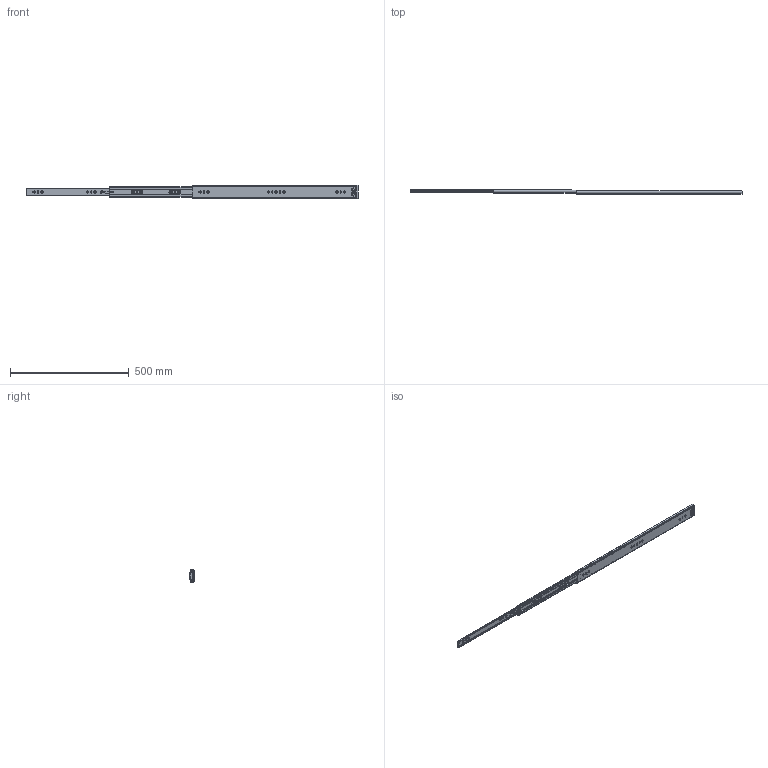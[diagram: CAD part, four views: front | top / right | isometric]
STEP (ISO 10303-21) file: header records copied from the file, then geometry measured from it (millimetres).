
FILE_DESCRIPTION((''),'2;1');
FILE_NAME('1057-02-28_ASM','2023-12-23T',('jishu015'),(''),'PRO/ENGINEER BY PARAMETRIC TECHNOLOGY CORPORATION, 2010280','PRO/ENGINEER BY PARAMETRIC TECHNOLOGY CORPORATION, 2010280','');
FILE_SCHEMA(('CONFIG_CONTROL_DESIGN'));
Products named in the file (14): KP-57-01WEIKE-18______; 1057WEIJIAO______; 1057DAZHUJIA-14GE______; 1057-5-6GANZHU______; 1057DAZHUJIA-14GE_______ASM; KP-57-01ZHONGGUI-18______; 57-ZHONGGUIDINWEIJIAN______; KP-57-01ZHONGGUI-18_______ASM; 1057XIAOZHUJIA______; 1057XIAOZHUJIA-14GE_______ASM; KP-57-01NEIGUI-18______; 45TIEBACHA______; KP-57-01NEIGUI-18_______ASM; 1057-02-28_ASM
Assembly tree (112 placements, depth 3):
  1057-02-28_ASM
    KP-57-01WEIKE-18______
    1057WEIJIAO______
    1057DAZHUJIA-14GE_______ASM
      1057DAZHUJIA-14GE______
      1057-5-6GANZHU______  x48
    KP-57-01ZHONGGUI-18_______ASM
      KP-57-01ZHONGGUI-18______
      57-ZHONGGUIDINWEIJIAN______
    1057XIAOZHUJIA-14GE_______ASM
      1057XIAOZHUJIA______
      1057-5-6GANZHU______  x52
    KP-57-01NEIGUI-18_______ASM
      KP-57-01NEIGUI-18______
      45TIEBACHA______
Bounding box: 1400 x 19 x 57.67 mm (x, y, z)
Volume: 304594.1 mm3; surface area: 354745.9 mm2
Topology: 108 solids, 110 shells, 2799 faces, 7838 edges, 4848 vertices
Faces by surface type: plane 1313, cylinder 1142, sphere 208, cone 74, bspline 56, torus 6
Entity records: 87569 total; most frequent: CARTESIAN_POINT 17817, DIRECTION 14816, ORIENTED_EDGE 14460, EDGE_CURVE 7232, AXIS2_PLACEMENT_3D 5075, VECTOR 4666, LINE 4666, VERTEX_POINT 4650
